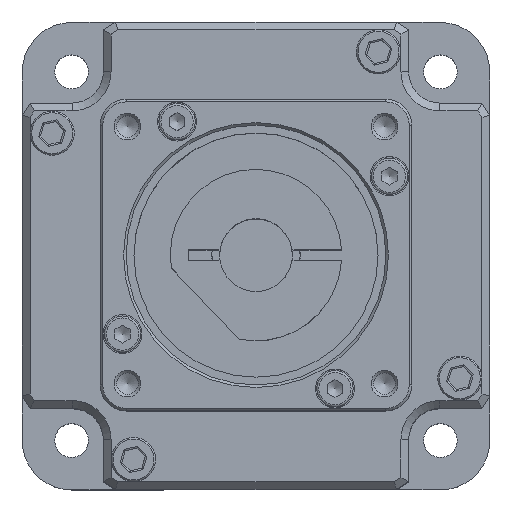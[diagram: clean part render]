
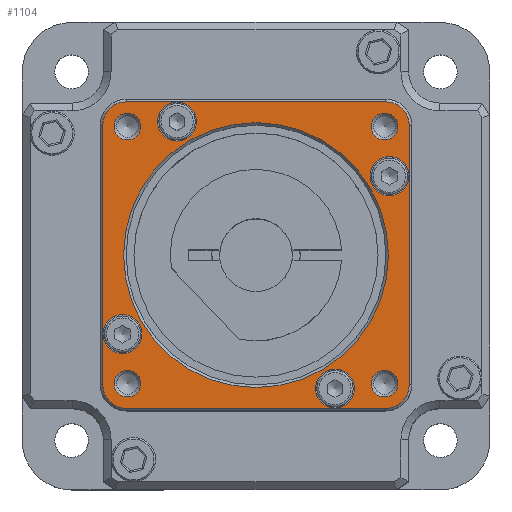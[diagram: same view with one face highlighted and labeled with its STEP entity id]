
A CAD part, top view. The second image highlights one B-rep face of the part: STEP entity #1104.
In plain terms, the highlighted planar face has unit normal (0, 0, 1).
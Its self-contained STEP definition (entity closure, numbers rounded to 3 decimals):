
#926=CARTESIAN_POINT('',(-22.182,-24.749,69.5));
#927=VERTEX_POINT('',#926);
#928=CARTESIAN_POINT('',(-24.749,-24.749,69.5));
#929=DIRECTION('',(0.0,0.0,1.0));
#930=DIRECTION('',(-1.0,0.0,0.0));
#931=AXIS2_PLACEMENT_3D('',#928,#929,#930);
#932=CIRCLE('',#931,2.567);
#933=EDGE_CURVE('',#927,#927,#932,.T.);
#938=CARTESIAN_POINT('',(0.,0.,69.5));
#939=DIRECTION('',(0.0,0.0,1.0));
#940=DIRECTION('',(1.0,0.0,0.0));
#941=AXIS2_PLACEMENT_3D('',#938,#939,#940);
#942=PLANE('',#941);
#943=CARTESIAN_POINT('',(-25.,29.5,69.5));
#944=VERTEX_POINT('',#943);
#945=CARTESIAN_POINT('',(25.,29.5,69.5));
#946=VERTEX_POINT('',#945);
#947=CARTESIAN_POINT('',(-25.,29.5,69.5));
#948=DIRECTION('',(1.0,0.0,0.0));
#949=VECTOR('',#948,50.0);
#950=LINE('',#947,#949);
#951=EDGE_CURVE('',#944,#946,#950,.T.);
#952=ORIENTED_EDGE('',*,*,#951,.F.);
#953=CARTESIAN_POINT('',(-29.5,25.0,69.5));
#954=VERTEX_POINT('',#953);
#955=CARTESIAN_POINT('',(-25.,25.0,69.5));
#956=DIRECTION('',(0.0,0.0,-1.0));
#957=DIRECTION('',(0.0,1.0,0.0));
#958=AXIS2_PLACEMENT_3D('',#955,#956,#957);
#959=CIRCLE('',#958,4.5);
#960=EDGE_CURVE('',#954,#944,#959,.T.);
#961=ORIENTED_EDGE('',*,*,#960,.F.);
#962=CARTESIAN_POINT('',(-29.5,-25.0,69.5));
#963=VERTEX_POINT('',#962);
#964=CARTESIAN_POINT('',(-29.5,-25.0,69.5));
#965=DIRECTION('',(0.0,1.0,0.0));
#966=VECTOR('',#965,50.);
#967=LINE('',#964,#966);
#968=EDGE_CURVE('',#963,#954,#967,.T.);
#969=ORIENTED_EDGE('',*,*,#968,.F.);
#970=CARTESIAN_POINT('',(-25.,-29.5,69.5));
#971=VERTEX_POINT('',#970);
#972=CARTESIAN_POINT('',(-25.,-25.,69.5));
#973=DIRECTION('',(0.0,0.0,-1.0));
#974=DIRECTION('',(-1.0,0.0,0.0));
#975=AXIS2_PLACEMENT_3D('',#972,#973,#974);
#976=CIRCLE('',#975,4.5);
#977=EDGE_CURVE('',#971,#963,#976,.T.);
#978=ORIENTED_EDGE('',*,*,#977,.F.);
#979=CARTESIAN_POINT('',(25.,-29.5,69.5));
#980=VERTEX_POINT('',#979);
#981=CARTESIAN_POINT('',(25.,-29.5,69.5));
#982=DIRECTION('',(-1.0,0.0,0.0));
#983=VECTOR('',#982,50.0);
#984=LINE('',#981,#983);
#985=EDGE_CURVE('',#980,#971,#984,.T.);
#986=ORIENTED_EDGE('',*,*,#985,.F.);
#987=CARTESIAN_POINT('',(29.5,-25.,69.5));
#988=VERTEX_POINT('',#987);
#989=CARTESIAN_POINT('',(25.,-25.,69.5));
#990=DIRECTION('',(0.0,0.0,-1.0));
#991=DIRECTION('',(0.0,-1.0,0.0));
#992=AXIS2_PLACEMENT_3D('',#989,#990,#991);
#993=CIRCLE('',#992,4.5);
#994=EDGE_CURVE('',#988,#980,#993,.T.);
#995=ORIENTED_EDGE('',*,*,#994,.F.);
#996=CARTESIAN_POINT('',(29.5,25.,69.5));
#997=VERTEX_POINT('',#996);
#998=CARTESIAN_POINT('',(29.5,25.,69.5));
#999=DIRECTION('',(0.0,-1.0,0.0));
#1000=VECTOR('',#999,50.);
#1001=LINE('',#998,#1000);
#1002=EDGE_CURVE('',#997,#988,#1001,.T.);
#1003=ORIENTED_EDGE('',*,*,#1002,.F.);
#1004=CARTESIAN_POINT('',(25.,25.,69.5));
#1005=DIRECTION('',(0.0,0.0,-1.0));
#1006=DIRECTION('',(1.0,0.0,0.0));
#1007=AXIS2_PLACEMENT_3D('',#1004,#1005,#1006);
#1008=CIRCLE('',#1007,4.5);
#1009=EDGE_CURVE('',#946,#997,#1008,.T.);
#1010=ORIENTED_EDGE('',*,*,#1009,.F.);
#1011=EDGE_LOOP('',(#952,#961,#969,#978,#986,#995,#1003,#1010));
#1012=FACE_OUTER_BOUND('',#1011,.T.);
#1013=CARTESIAN_POINT('',(24.749,-22.182,69.5));
#1014=VERTEX_POINT('',#1013);
#1015=CARTESIAN_POINT('',(24.749,-24.749,69.5));
#1016=DIRECTION('',(0.0,0.0,1.0));
#1017=DIRECTION('',(0.0,-1.0,0.0));
#1018=AXIS2_PLACEMENT_3D('',#1015,#1016,#1017);
#1019=CIRCLE('',#1018,2.567);
#1020=EDGE_CURVE('',#1014,#1014,#1019,.T.);
#1021=ORIENTED_EDGE('',*,*,#1020,.F.);
#1022=EDGE_LOOP('',(#1021));
#1023=FACE_BOUND('',#1022,.T.);
#1024=CARTESIAN_POINT('',(-24.749,22.182,69.5));
#1025=VERTEX_POINT('',#1024);
#1026=CARTESIAN_POINT('',(-24.749,24.749,69.5));
#1027=DIRECTION('',(0.0,0.0,1.0));
#1028=DIRECTION('',(0.0,1.0,0.0));
#1029=AXIS2_PLACEMENT_3D('',#1026,#1027,#1028);
#1030=CIRCLE('',#1029,2.567);
#1031=EDGE_CURVE('',#1025,#1025,#1030,.T.);
#1032=ORIENTED_EDGE('',*,*,#1031,.F.);
#1033=EDGE_LOOP('',(#1032));
#1034=FACE_BOUND('',#1033,.T.);
#1035=CARTESIAN_POINT('',(15.2,-29.452,69.5));
#1036=VERTEX_POINT('',#1035);
#1037=CARTESIAN_POINT('',(15.2,-25.702,69.5));
#1038=DIRECTION('',(0.0,0.0,-1.0));
#1039=DIRECTION('',(0.0,1.0,0.0));
#1040=AXIS2_PLACEMENT_3D('',#1037,#1038,#1039);
#1041=CIRCLE('',#1040,3.75);
#1042=EDGE_CURVE('',#1036,#1036,#1041,.T.);
#1043=ORIENTED_EDGE('',*,*,#1042,.T.);
#1044=EDGE_LOOP('',(#1043));
#1045=FACE_BOUND('',#1044,.T.);
#1046=CARTESIAN_POINT('',(-29.452,-15.2,69.5));
#1047=VERTEX_POINT('',#1046);
#1048=CARTESIAN_POINT('',(-25.702,-15.2,69.5));
#1049=DIRECTION('',(0.0,0.0,-1.0));
#1050=DIRECTION('',(1.0,0.0,0.0));
#1051=AXIS2_PLACEMENT_3D('',#1048,#1049,#1050);
#1052=CIRCLE('',#1051,3.75);
#1053=EDGE_CURVE('',#1047,#1047,#1052,.T.);
#1054=ORIENTED_EDGE('',*,*,#1053,.T.);
#1055=EDGE_LOOP('',(#1054));
#1056=FACE_BOUND('',#1055,.T.);
#1057=CARTESIAN_POINT('',(-15.2,29.452,69.5));
#1058=VERTEX_POINT('',#1057);
#1059=CARTESIAN_POINT('',(-15.2,25.702,69.5));
#1060=DIRECTION('',(0.0,0.0,-1.0));
#1061=DIRECTION('',(0.0,-1.0,0.0));
#1062=AXIS2_PLACEMENT_3D('',#1059,#1060,#1061);
#1063=CIRCLE('',#1062,3.75);
#1064=EDGE_CURVE('',#1058,#1058,#1063,.T.);
#1065=ORIENTED_EDGE('',*,*,#1064,.T.);
#1066=EDGE_LOOP('',(#1065));
#1067=FACE_BOUND('',#1066,.T.);
#1068=CARTESIAN_POINT('',(29.452,15.2,69.5));
#1069=VERTEX_POINT('',#1068);
#1070=CARTESIAN_POINT('',(25.702,15.2,69.5));
#1071=DIRECTION('',(0.0,0.0,-1.0));
#1072=DIRECTION('',(-1.0,0.0,0.0));
#1073=AXIS2_PLACEMENT_3D('',#1070,#1071,#1072);
#1074=CIRCLE('',#1073,3.75);
#1075=EDGE_CURVE('',#1069,#1069,#1074,.T.);
#1076=ORIENTED_EDGE('',*,*,#1075,.T.);
#1077=EDGE_LOOP('',(#1076));
#1078=FACE_BOUND('',#1077,.T.);
#1079=CARTESIAN_POINT('',(25.5,0.,69.5));
#1080=VERTEX_POINT('',#1079);
#1081=CARTESIAN_POINT('',(0.,0.,69.5));
#1082=DIRECTION('',(0.0,0.0,1.0));
#1083=DIRECTION('',(-1.0,0.0,0.0));
#1084=AXIS2_PLACEMENT_3D('',#1081,#1082,#1083);
#1085=CIRCLE('',#1084,25.5);
#1086=EDGE_CURVE('',#1080,#1080,#1085,.T.);
#1087=ORIENTED_EDGE('',*,*,#1086,.F.);
#1088=EDGE_LOOP('',(#1087));
#1089=FACE_BOUND('',#1088,.T.);
#1090=CARTESIAN_POINT('',(22.182,24.749,69.5));
#1091=VERTEX_POINT('',#1090);
#1092=CARTESIAN_POINT('',(24.749,24.749,69.5));
#1093=DIRECTION('',(0.0,0.0,1.0));
#1094=DIRECTION('',(1.0,0.0,0.0));
#1095=AXIS2_PLACEMENT_3D('',#1092,#1093,#1094);
#1096=CIRCLE('',#1095,2.567);
#1097=EDGE_CURVE('',#1091,#1091,#1096,.T.);
#1098=ORIENTED_EDGE('',*,*,#1097,.F.);
#1099=EDGE_LOOP('',(#1098));
#1100=FACE_BOUND('',#1099,.T.);
#1101=ORIENTED_EDGE('',*,*,#933,.F.);
#1102=EDGE_LOOP('',(#1101));
#1103=FACE_BOUND('',#1102,.T.);
#1104=ADVANCED_FACE('',(#1012,#1023,#1034,#1045,#1056,#1067,#1078,#1089,#1100,#1103),#942,.T.);
